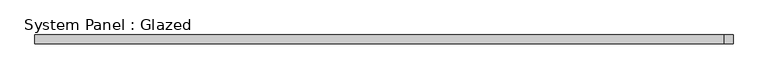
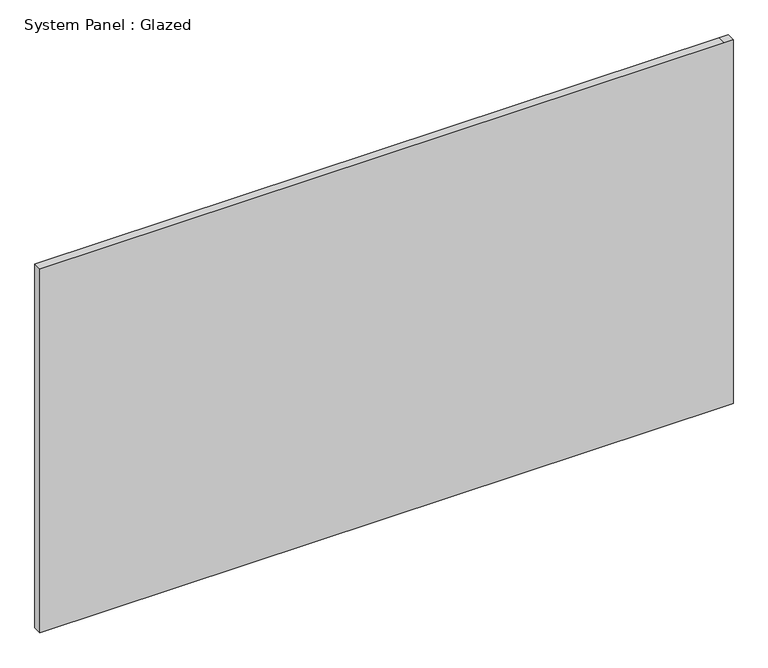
"""IFC4 building model written with IfcOpenShell, lengths in millimetres: plate geometry, System Panel : Glazed."""

import ifcopenshell
import ifcopenshell.guid

model = None  # the IFC model being written
_history = None  # IfcOwnerHistory: only IFC2X3 demands one
_inside = {}  # id of a spatial element -> (the spatial element, [elements in it])
_under = {}  # id of a project, library or spatial element -> (it, [spatial elements below it])
_declared = {}  # id of a project -> (the project, [libraries it declares])
_typed = {}  # id of a type object -> (the type object, [elements of that type])
_made_of = {}  # id of a material, layer set ... -> (it, [elements and type objects made of it])


def new_model(schema):
    """Start an empty IFC model of exactly this schema.

    Asked for "IFC4X3", IfcOpenShell would pick the latest addendum, in which some entities
    have other attributes; the version numbers below select the first issue.
    IFC2X3 requires an IfcOwnerHistory on every rooted entity: one is made here for all.
    """
    global model, _history
    if schema == "IFC4X3":
        model = ifcopenshell.file(schema_version=(4, 3, 0, 0))
    else:
        model = ifcopenshell.file(schema=schema)
    _inside.clear()
    _under.clear()
    _declared.clear()
    _typed.clear()
    _made_of.clear()
    _history = None
    if model.schema == "IFC2X3":
        org = make("IfcOrganization", Name="unknown")
        user = make(
            "IfcPersonAndOrganization",
            ThePerson=make("IfcPerson", FamilyName="unknown"),
            TheOrganization=org,
        )
        app = make(
            "IfcApplication",
            ApplicationDeveloper=org,
            Version="unknown",
            ApplicationFullName="unknown",
            ApplicationIdentifier="unknown",
        )
        _history = make(
            "IfcOwnerHistory",
            OwningUser=user,
            OwningApplication=app,
            ChangeAction="ADDED",
            CreationDate=0,
        )
    return model


def make(cls, **values):
    """One entity of the class cls with the attributes given. An attribute that is None is left unset."""
    return model.create_entity(
        cls, **{name: value for name, value in values.items() if value is not None}
    )


def rooted(cls, **values):
    """An entity with a GlobalId (a new one), such as an element, a storey or a relation."""
    return make(cls, GlobalId=ifcopenshell.guid.new(), OwnerHistory=_history, **values)


def si_unit(unit_type, name, prefix=None):
    """IfcSIUnit, for example si_unit("LENGTHUNIT", "METRE", prefix="MILLI")."""
    return make("IfcSIUnit", UnitType=unit_type, Prefix=prefix, Name=name)


def assignment(units):
    """IfcUnitAssignment: the units of a project."""
    return None if units is None else make("IfcUnitAssignment", Units=units)


def point(xyz):
    """IfcCartesianPoint."""
    return None if xyz is None else make("IfcCartesianPoint", Coordinates=xyz)


def direction(xyz):
    """IfcDirection."""
    return None if xyz is None else make("IfcDirection", DirectionRatios=xyz)


def frame(location, z_axis=None, x_axis=None):
    """IfcAxis2Placement3D, a coordinate frame: its origin and axes. An axis left out is left unset."""
    return make(
        "IfcAxis2Placement3D",
        Location=point(location),
        Axis=direction(z_axis),
        RefDirection=direction(x_axis),
    )


def origin():
    """The frame at (0, 0, 0) with its axes left unset."""
    return frame((0.0, 0.0, 0.0))


def place(relative_to, where):
    """IfcLocalPlacement: puts the frame where relative to a parent placement (None: the world)."""
    return make(
        "IfcLocalPlacement", PlacementRelTo=relative_to, RelativePlacement=where
    )


def context(
    kind, dimensions, precision=None, world=None, true_north=None, identifier=None
):
    """IfcGeometricRepresentationContext, for example the 3D "Model" context."""
    return make(
        "IfcGeometricRepresentationContext",
        ContextIdentifier=identifier,
        ContextType=kind,
        CoordinateSpaceDimension=dimensions,
        Precision=precision,
        WorldCoordinateSystem=world,
        TrueNorth=true_north,
    )


def project(units=None, contexts=None):
    """IfcProject with its units and contexts."""
    return rooted(
        "IfcProject",
        Name="project",
        RepresentationContexts=contexts,
        UnitsInContext=assignment(units),
    )


def spatial(cls, under=None, at=None, **own):
    """A site, building, storey or space (cls), placed at a placement, below another one or the project."""
    s = rooted(cls, ObjectPlacement=at, **own)
    if under is not None:
        _under.setdefault(under.id(), (under, []))[1].append(s)
    return s


def polyline(points):
    """IfcPolyline through the points."""
    return make("IfcPolyline", Points=[point(p) for p in points])


def outline(outer, holes=None, kind="AREA"):
    """IfcArbitraryClosedProfileDef: a profile drawn as a closed curve; with holes, ...WithVoids."""
    if holes is None:
        return make("IfcArbitraryClosedProfileDef", ProfileType=kind, OuterCurve=outer)
    return make(
        "IfcArbitraryProfileDefWithVoids",
        ProfileType=kind,
        OuterCurve=outer,
        InnerCurves=holes,
    )


def extrude(swept, where, along, depth):
    """IfcExtrudedAreaSolid: the profile swept, set in the frame where, extruded along a direction by depth."""
    return make(
        "IfcExtrudedAreaSolid",
        SweptArea=swept,
        Position=where,
        ExtrudedDirection=direction(along),
        Depth=depth,
    )


def shape(context_of_items, identifier, shape_type, items):
    """IfcShapeRepresentation: the items that make up one representation, for example the "Body"."""
    return make(
        "IfcShapeRepresentation",
        ContextOfItems=context_of_items,
        RepresentationIdentifier=identifier,
        RepresentationType=shape_type,
        Items=items,
    )


def source(mapping_origin, context_of_items, identifier, shape_type, items):
    """IfcRepresentationMap: a shape defined once, which mapped items show again and again."""
    return make(
        "IfcRepresentationMap",
        MappingOrigin=mapping_origin,
        MappedRepresentation=shape(context_of_items, identifier, shape_type, items),
    )


def transform(
    local_origin,
    x_axis=None,
    y_axis=None,
    z_axis=None,
    scale=None,
    scale2=None,
    scale3=None,
    uniform=True,
):
    """IfcCartesianTransformationOperator3D, or its non-uniform kind. x_axis, y_axis, z_axis: its Axis1, 2, 3."""
    if uniform:
        return make(
            "IfcCartesianTransformationOperator3D",
            Axis1=direction(x_axis),
            Axis2=direction(y_axis),
            LocalOrigin=point(local_origin),
            Scale=scale,
            Axis3=direction(z_axis),
        )
    return make(
        "IfcCartesianTransformationOperator3DnonUniform",
        Axis1=direction(x_axis),
        Axis2=direction(y_axis),
        LocalOrigin=point(local_origin),
        Scale=scale,
        Axis3=direction(z_axis),
        Scale2=scale2,
        Scale3=scale3,
    )


def mapped(mapping_source, mapping_target):
    """IfcMappedItem: shows the shape of a source again, moved by a transform."""
    return make(
        "IfcMappedItem", MappingSource=mapping_source, MappingTarget=mapping_target
    )


def made_of(thing, what):
    """Note that an element or type object is made of a material, layer set ...; save() writes the relation."""
    if what is not None:
        _made_of.setdefault(what.id(), (what, []))[1].append(thing)
    return thing


def element(
    cls,
    number,
    at=None,
    inside=None,
    cuts=None,
    type_object=None,
    material=None,
    context=None,
    identifier="Body",
    shape_type=None,
    held_by="IfcProductDefinitionShape",
    body=None,
    shapes=None,
    **own,
):
    """One element of the class cls, such as IfcWall. Its Tag is "e" and its number.

    at: its placement. inside: the storey or other place that contains it. cuts: it is an
    opening in that element (IfcRelVoidsElement). A single representation is given by context,
    identifier, shape_type and body (its items); several are given by shapes. held_by: the class
    of the entity that holds the representations. save() writes the other relations.
    """
    e = rooted(cls, Tag="e%d" % number, ObjectPlacement=at, **own)
    if body is not None:
        shapes = [shape(context, identifier, shape_type, body)]
    if shapes is not None:
        e.Representation = make(held_by, Representations=shapes)
    if inside is not None:
        _inside.setdefault(inside.id(), (inside, []))[1].append(e)
    if cuts is not None:
        rooted(
            "IfcRelVoidsElement", RelatingBuildingElement=cuts, RelatedOpeningElement=e
        )
    if type_object is not None:
        _typed.setdefault(type_object.id(), (type_object, []))[1].append(e)
    return made_of(e, material)


def aggregate(whole, parts):
    """IfcRelAggregates: a whole, such as a stair, and the parts it consists of."""
    return rooted("IfcRelAggregates", RelatingObject=whole, RelatedObjects=parts)


def save(model, path):
    """Write the relations noted so far, then the file.

    IfcRelAggregates (storeys below a building ...), IfcRelContainedInSpatialStructure (elements
    in a storey), IfcRelDefinesByType, IfcRelAssociatesMaterial and IfcRelDeclares: one each for
    every whole, place, type object, material and project.
    """
    for whole, parts in _under.values():
        aggregate(whole, parts)
    for where, things in _inside.values():
        rooted(
            "IfcRelContainedInSpatialStructure",
            RelatedElements=things,
            RelatingStructure=where,
        )
    for kind, things in _typed.values():
        rooted("IfcRelDefinesByType", RelatedObjects=things, RelatingType=kind)
    for what, things in _made_of.values():
        rooted("IfcRelAssociatesMaterial", RelatedObjects=things, RelatingMaterial=what)
    for by, libraries in _declared.values():
        rooted("IfcRelDeclares", RelatingContext=by, RelatedDefinitions=libraries)
    model.write(path)


def system_panel_glazed_d6bfc804(model_context):
    return source(origin(), model_context, "Body", "SweptSolid", [
        extrude(outline(polyline([(0.0, -1012.825), (0.0, 987.425), (0.0, 1012.825), (1123.95, 1012.825), (1123.95, 987.425), (1123.95, -1012.825), (0.0, -1012.825)])), frame((0.0, -44.45, 0.0), z_axis=(0.0, 1.0, 0.0), x_axis=(0.0, 0.0, 1.0)), (0.0, 0.0, 1.0), 25.4),
    ])


if __name__ == "__main__":
    model = new_model("IFC4")
    model_context = context("Model", 3, world=origin())
    ifc_project = project(units=[si_unit("LENGTHUNIT", "METRE", prefix="MILLI")], contexts=[model_context])
    site = spatial("IfcSite", under=ifc_project)
    building = spatial("IfcBuilding", under=site)
    placement = place(None, origin())
    system_panel_glazed_shape = system_panel_glazed_d6bfc804(model_context)
    element("IfcPlate", 1, ObjectType="System Panel : Glazed", at=placement, inside=building, context=model_context, shape_type="MappedRepresentation", body=[
        mapped(system_panel_glazed_shape, transform((0.0, 0.0, 0.0), x_axis=(1.0, 0.0, 0.0), y_axis=(0.0, 1.0, 0.0), z_axis=(0.0, 0.0, 1.0))),
    ])
    save(model, "model.ifc")
